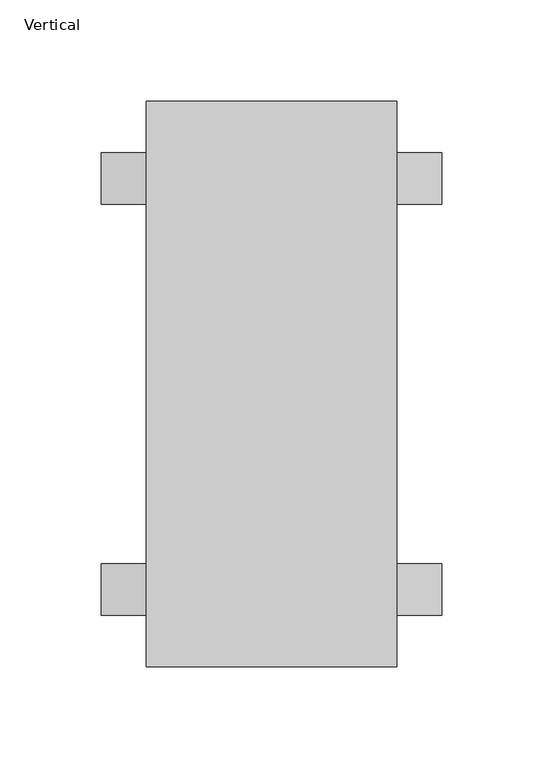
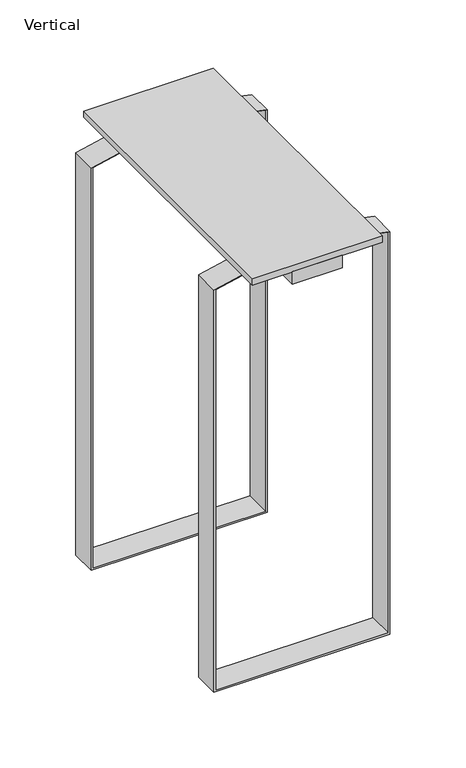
"""IFC4 building model written with IfcOpenShell, lengths in millimetres: furniture geometry, HermanMiller_ThrivePortfolio_Y7813_CPUHolder : Vertical."""

from ifc_helpers import new_model, si_unit, frame, origin, place, context, project, spatial, polyline, outline, extrude, source, transform, mapped, element, save


def vertical_8d45c77d(model_context):
    return source(origin(), model_context, "Body", "SweptSolid", [
        extrude(outline(polyline([(23.8125, -139.7), (-23.8125, -139.7), (-23.8125, 139.7), (23.8125, 139.7), (23.8125, -139.7)])), frame((0.0, 0.0, 679.45), z_axis=(0.0, 0.0, 1.0), x_axis=(1.0, 0.0, 0.0)), (0.0, 0.0, 1.0), 12.7),
        extrude(outline(polyline([(61.9125, 139.7), (61.9125, -139.7), (-61.9125, -139.7), (-61.9125, 139.7), (61.9125, 139.7)])), frame((0.0, 0.0, 692.15), z_axis=(0.0, 0.0, 1.0), x_axis=(1.0, 0.0, 0.0)), (0.0, 0.0, 1.0), 6.35),
        extrude(outline(polyline([(273.05, -84.1375), (273.05, 84.1375), (679.45, 84.1375), (692.15, 25.4), (692.15, 23.8125), (679.45, 82.55), (274.6375, 82.55), (274.6375, -82.55), (679.45, -82.55), (692.15, -23.8125), (692.15, -25.4), (679.45, -84.1375), (273.05, -84.1375)])), frame((0.0, 88.9, 0.0), z_axis=(0.0, 1.0, 0.0), x_axis=(0.0, 0.0, 1.0)), (0.0, 0.0, 1.0), 25.4),
        extrude(outline(polyline([(274.6375, 82.55), (274.6375, -82.55), (679.45, -82.55), (692.15, -23.8125), (692.15, -25.4), (679.45, -84.1375), (273.05, -84.1375), (273.05, 84.1375), (679.45, 84.1375), (692.15, 25.4), (692.15, 23.8125), (679.45, 82.55), (274.6375, 82.55)])), frame((0.0, -114.3, 0.0), z_axis=(0.0, 1.0, 0.0), x_axis=(0.0, 0.0, 1.0)), (0.0, 0.0, 1.0), 25.4),
    ])


if __name__ == "__main__":
    model = new_model("IFC4")
    model_context = context("Model", 3, world=origin())
    ifc_project = project(units=[si_unit("LENGTHUNIT", "METRE", prefix="MILLI")], contexts=[model_context])
    site = spatial("IfcSite", under=ifc_project)
    building = spatial("IfcBuilding", under=site)
    placement = place(None, origin())
    vertical_shape = vertical_8d45c77d(model_context)
    element("IfcFurniture", 1, ObjectType="HermanMiller_ThrivePortfolio_Y7813_CPUHolder : Vertical", at=placement, inside=building, context=model_context, shape_type="MappedRepresentation", body=[
        mapped(vertical_shape, transform((0.0, 0.0, 0.0), x_axis=(1.0, 0.0, 0.0), y_axis=(0.0, 1.0, 0.0), z_axis=(0.0, 0.0, 1.0))),
    ])
    save(model, "model.ifc")
